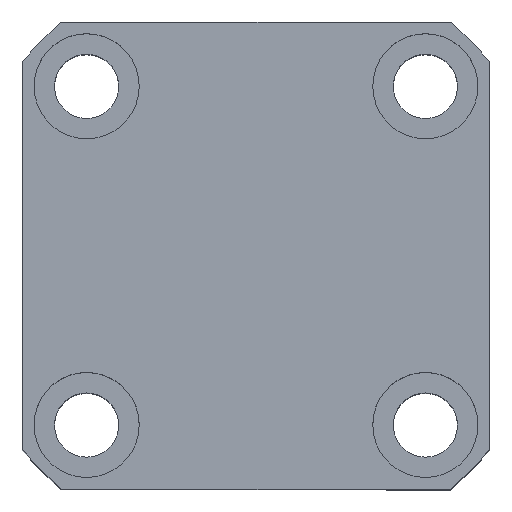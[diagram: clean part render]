
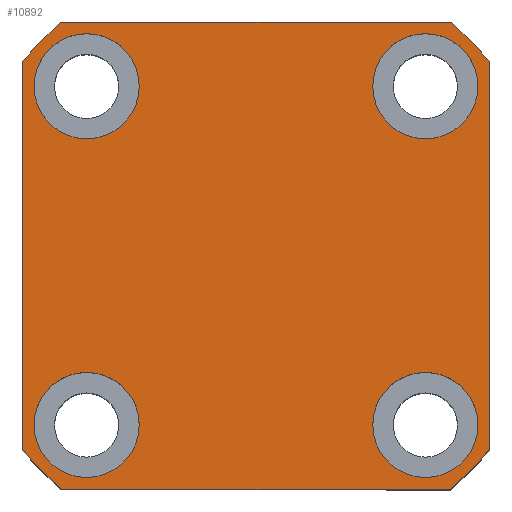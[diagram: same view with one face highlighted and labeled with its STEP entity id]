
A CAD part, top view. The second image highlights one B-rep face of the part: STEP entity #10892.
In plain terms, the highlighted planar face has unit normal (0, 0, 1).
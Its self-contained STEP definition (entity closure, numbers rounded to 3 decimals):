
#51 = DIRECTION ( 'NONE',  ( 0., 0., 1. ) ) ;
#110 = EDGE_LOOP ( 'NONE', ( #7571, #15148 ) ) ;
#561 = VERTEX_POINT ( 'NONE', #3486 ) ;
#595 = EDGE_CURVE ( 'NONE', #8358, #13368, #8290, .T. ) ;
#612 = CARTESIAN_POINT ( 'NONE',  ( 38., -29., 40. ) ) ;
#820 = DIRECTION ( 'NONE',  ( 1., 0., 0. ) ) ;
#904 = CARTESIAN_POINT ( 'NONE',  ( -20., 29., 40. ) ) ;
#925 = CIRCLE ( 'NONE', #2994, 9. ) ;
#934 = CARTESIAN_POINT ( 'NONE',  ( 0., 0., 40. ) ) ;
#1045 = DIRECTION ( 'NONE',  ( 1., 0., 0. ) ) ;
#1069 = EDGE_CURVE ( 'NONE', #10431, #12172, #7869, .T. ) ;
#1109 = EDGE_CURVE ( 'NONE', #15312, #5405, #10699, .T. ) ;
#1221 = VERTEX_POINT ( 'NONE', #1772 ) ;
#1274 = FACE_OUTER_BOUND ( 'NONE', #13201, .T. ) ;
#1325 = ORIENTED_EDGE ( 'NONE', *, *, #12152, .F. ) ;
#1384 = VERTEX_POINT ( 'NONE', #15727 ) ;
#1568 = DIRECTION ( 'NONE',  ( 1., 0., 0. ) ) ;
#1593 = DIRECTION ( 'NONE',  ( 0., 0., 1. ) ) ;
#1772 = CARTESIAN_POINT ( 'NONE',  ( -38., -29., 40. ) ) ;
#2342 = DIRECTION ( 'NONE',  ( 0., 0., 1. ) ) ;
#2349 = VERTEX_POINT ( 'NONE', #8532 ) ;
#2367 = CARTESIAN_POINT ( 'NONE',  ( -29., 29., 40. ) ) ;
#2642 = CARTESIAN_POINT ( 'NONE',  ( -20., -29., 40. ) ) ;
#2922 = CIRCLE ( 'NONE', #16923, 52. ) ;
#2994 = AXIS2_PLACEMENT_3D ( 'NONE', #8382, #9859, #16845 ) ;
#3103 = DIRECTION ( 'NONE',  ( 0., 0., 1. ) ) ;
#3146 = DIRECTION ( 'NONE',  ( 1., 0., 0. ) ) ;
#3206 = CARTESIAN_POINT ( 'NONE',  ( 0., 0., 40. ) ) ;
#3440 = ORIENTED_EDGE ( 'NONE', *, *, #1069, .T. ) ;
#3459 = VERTEX_POINT ( 'NONE', #15363 ) ;
#3486 = CARTESIAN_POINT ( 'NONE',  ( 40., 33.226, 40. ) ) ;
#3554 = ORIENTED_EDGE ( 'NONE', *, *, #9225, .F. ) ;
#3665 = DIRECTION ( 'NONE',  ( 0., 1., 0. ) ) ;
#3673 = CARTESIAN_POINT ( 'NONE',  ( -29., -29., 40. ) ) ;
#3864 = AXIS2_PLACEMENT_3D ( 'NONE', #3206, #12999, #3146 ) ;
#3922 = DIRECTION ( 'NONE',  ( 0., 0., 1. ) ) ;
#4311 = DIRECTION ( 'NONE',  ( 0., 0., 1. ) ) ;
#4376 = DIRECTION ( 'NONE',  ( 1., 0., 0. ) ) ;
#4402 = EDGE_CURVE ( 'NONE', #17044, #561, #12048, .T. ) ;
#4643 = VECTOR ( 'NONE', #3665, 1000. ) ;
#4770 = CARTESIAN_POINT ( 'NONE',  ( -33.226, 40., 40. ) ) ;
#4901 = AXIS2_PLACEMENT_3D ( 'NONE', #7171, #3103, #4376 ) ;
#5051 = CIRCLE ( 'NONE', #15696, 9. ) ;
#5104 = AXIS2_PLACEMENT_3D ( 'NONE', #6131, #17376, #10389 ) ;
#5405 = VERTEX_POINT ( 'NONE', #8518 ) ;
#5484 = VECTOR ( 'NONE', #6243, 1000. ) ;
#5970 = EDGE_CURVE ( 'NONE', #10139, #2349, #12886, .T. ) ;
#6131 = CARTESIAN_POINT ( 'NONE',  ( 29., -29., 40. ) ) ;
#6191 = EDGE_LOOP ( 'NONE', ( #11269, #16639 ) ) ;
#6243 = DIRECTION ( 'NONE',  ( 0., -1., 0. ) ) ;
#6374 = CIRCLE ( 'NONE', #7653, 9. ) ;
#6408 = CIRCLE ( 'NONE', #10844, 52. ) ;
#6762 = EDGE_CURVE ( 'NONE', #3459, #10431, #17435, .T. ) ;
#6887 = CARTESIAN_POINT ( 'NONE',  ( 33.226, -40., 40. ) ) ;
#7058 = CARTESIAN_POINT ( 'NONE',  ( -29., 29., 40. ) ) ;
#7150 = FACE_BOUND ( 'NONE', #6191, .T. ) ;
#7171 = CARTESIAN_POINT ( 'NONE',  ( 0., 0., 40. ) ) ;
#7444 = AXIS2_PLACEMENT_3D ( 'NONE', #11315, #4311, #14067 ) ;
#7526 = ORIENTED_EDGE ( 'NONE', *, *, #11019, .F. ) ;
#7571 = ORIENTED_EDGE ( 'NONE', *, *, #5970, .F. ) ;
#7653 = AXIS2_PLACEMENT_3D ( 'NONE', #7058, #1593, #14179 ) ;
#7701 = VERTEX_POINT ( 'NONE', #9085 ) ;
#7737 = DIRECTION ( 'NONE',  ( 1., 0., 0. ) ) ;
#7800 = DIRECTION ( 'NONE',  ( 0., 0., 1. ) ) ;
#7869 = LINE ( 'NONE', #15900, #5484 ) ;
#8035 = VERTEX_POINT ( 'NONE', #2642 ) ;
#8098 = ORIENTED_EDGE ( 'NONE', *, *, #6762, .T. ) ;
#8290 = LINE ( 'NONE', #10535, #16358 ) ;
#8358 = VERTEX_POINT ( 'NONE', #11430 ) ;
#8382 = CARTESIAN_POINT ( 'NONE',  ( 29., -29., 40. ) ) ;
#8442 = ORIENTED_EDGE ( 'NONE', *, *, #1109, .F. ) ;
#8471 = ORIENTED_EDGE ( 'NONE', *, *, #15708, .T. ) ;
#8484 = CARTESIAN_POINT ( 'NONE',  ( 40., -33.226, 40. ) ) ;
#8518 = CARTESIAN_POINT ( 'NONE',  ( 20., 29., 40. ) ) ;
#8532 = CARTESIAN_POINT ( 'NONE',  ( -38., 29., 40. ) ) ;
#8790 = EDGE_CURVE ( 'NONE', #1384, #17202, #15892, .T. ) ;
#8835 = CARTESIAN_POINT ( 'NONE',  ( -40., 33.226, 40. ) ) ;
#9085 = CARTESIAN_POINT ( 'NONE',  ( 33.226, 40., 40. ) ) ;
#9114 = FACE_BOUND ( 'NONE', #110, .T. ) ;
#9225 = EDGE_CURVE ( 'NONE', #1221, #8035, #14373, .T. ) ;
#9262 = PLANE ( 'NONE',  #15847 ) ;
#9327 = EDGE_LOOP ( 'NONE', ( #1325, #3554 ) ) ;
#9359 = DIRECTION ( 'NONE',  ( 0., 0., 1. ) ) ;
#9429 = CARTESIAN_POINT ( 'NONE',  ( -40., -33.226, 40. ) ) ;
#9859 = DIRECTION ( 'NONE',  ( 0., 0., 1. ) ) ;
#9894 = CARTESIAN_POINT ( 'NONE',  ( 0., 0., 40. ) ) ;
#10139 = VERTEX_POINT ( 'NONE', #904 ) ;
#10389 = DIRECTION ( 'NONE',  ( 1., 0., 0. ) ) ;
#10431 = VERTEX_POINT ( 'NONE', #8835 ) ;
#10463 = AXIS2_PLACEMENT_3D ( 'NONE', #11157, #15414, #15474 ) ;
#10535 = CARTESIAN_POINT ( 'NONE',  ( -33.226, -40., 40. ) ) ;
#10699 = CIRCLE ( 'NONE', #11386, 9. ) ;
#10719 = VECTOR ( 'NONE', #13295, 1000. ) ;
#10832 = DIRECTION ( 'NONE',  ( 0., 0., 1. ) ) ;
#10844 = AXIS2_PLACEMENT_3D ( 'NONE', #9894, #51, #1568 ) ;
#10892 = ADVANCED_FACE ( 'NONE', ( #7150, #12816, #9114, #16078, #1274 ), #9262, .T. ) ;
#10952 = CARTESIAN_POINT ( 'NONE',  ( 38., 29., 40. ) ) ;
#11019 = EDGE_CURVE ( 'NONE', #5405, #15312, #15203, .T. ) ;
#11157 = CARTESIAN_POINT ( 'NONE',  ( -29., -29., 40. ) ) ;
#11187 = EDGE_LOOP ( 'NONE', ( #8442, #7526 ) ) ;
#11201 = ORIENTED_EDGE ( 'NONE', *, *, #15848, .T. ) ;
#11269 = ORIENTED_EDGE ( 'NONE', *, *, #12450, .F. ) ;
#11315 = CARTESIAN_POINT ( 'NONE',  ( 29., 29., 40. ) ) ;
#11386 = AXIS2_PLACEMENT_3D ( 'NONE', #12009, #7800, #17531 ) ;
#11430 = CARTESIAN_POINT ( 'NONE',  ( -33.226, -40., 40. ) ) ;
#11500 = ORIENTED_EDGE ( 'NONE', *, *, #4402, .T. ) ;
#11966 = EDGE_CURVE ( 'NONE', #7701, #3459, #15070, .T. ) ;
#12002 = CARTESIAN_POINT ( 'NONE',  ( 40., 33.226, 40. ) ) ;
#12009 = CARTESIAN_POINT ( 'NONE',  ( 29., 29., 40. ) ) ;
#12048 = LINE ( 'NONE', #12002, #4643 ) ;
#12152 = EDGE_CURVE ( 'NONE', #8035, #1221, #5051, .T. ) ;
#12172 = VERTEX_POINT ( 'NONE', #9429 ) ;
#12450 = EDGE_CURVE ( 'NONE', #17202, #1384, #925, .T. ) ;
#12463 = EDGE_CURVE ( 'NONE', #2349, #10139, #6374, .T. ) ;
#12816 = FACE_BOUND ( 'NONE', #9327, .T. ) ;
#12886 = CIRCLE ( 'NONE', #16848, 9. ) ;
#12999 = DIRECTION ( 'NONE',  ( 0., 0., 1. ) ) ;
#13201 = EDGE_LOOP ( 'NONE', ( #8098, #3440, #8471, #15987, #11201, #11500, #14577, #15560 ) ) ;
#13295 = DIRECTION ( 'NONE',  ( -1., 0., 0. ) ) ;
#13368 = VERTEX_POINT ( 'NONE', #6887 ) ;
#13423 = DIRECTION ( 'NONE',  ( 1., 0., 0. ) ) ;
#13757 = CARTESIAN_POINT ( 'NONE',  ( 0., 0., 40. ) ) ;
#13803 = CIRCLE ( 'NONE', #3864, 52. ) ;
#14067 = DIRECTION ( 'NONE',  ( 1., 0., 0. ) ) ;
#14179 = DIRECTION ( 'NONE',  ( 1., 0., 0. ) ) ;
#14373 = CIRCLE ( 'NONE', #10463, 9. ) ;
#14577 = ORIENTED_EDGE ( 'NONE', *, *, #15508, .T. ) ;
#15063 = DIRECTION ( 'NONE',  ( 1., 0., 0. ) ) ;
#15070 = LINE ( 'NONE', #4770, #10719 ) ;
#15148 = ORIENTED_EDGE ( 'NONE', *, *, #12463, .F. ) ;
#15203 = CIRCLE ( 'NONE', #7444, 9. ) ;
#15312 = VERTEX_POINT ( 'NONE', #10952 ) ;
#15363 = CARTESIAN_POINT ( 'NONE',  ( -33.226, 40., 40. ) ) ;
#15414 = DIRECTION ( 'NONE',  ( 0., 0., 1. ) ) ;
#15474 = DIRECTION ( 'NONE',  ( 1., 0., 0. ) ) ;
#15508 = EDGE_CURVE ( 'NONE', #561, #7701, #6408, .T. ) ;
#15560 = ORIENTED_EDGE ( 'NONE', *, *, #11966, .T. ) ;
#15696 = AXIS2_PLACEMENT_3D ( 'NONE', #3673, #10832, #13423 ) ;
#15708 = EDGE_CURVE ( 'NONE', #12172, #8358, #13803, .T. ) ;
#15727 = CARTESIAN_POINT ( 'NONE',  ( 20., -29., 40. ) ) ;
#15847 = AXIS2_PLACEMENT_3D ( 'NONE', #934, #2342, #820 ) ;
#15848 = EDGE_CURVE ( 'NONE', #13368, #17044, #2922, .T. ) ;
#15892 = CIRCLE ( 'NONE', #5104, 9. ) ;
#15900 = CARTESIAN_POINT ( 'NONE',  ( -40., 33.226, 40. ) ) ;
#15987 = ORIENTED_EDGE ( 'NONE', *, *, #595, .T. ) ;
#16078 = FACE_BOUND ( 'NONE', #11187, .T. ) ;
#16358 = VECTOR ( 'NONE', #7737, 1000. ) ;
#16639 = ORIENTED_EDGE ( 'NONE', *, *, #8790, .F. ) ;
#16845 = DIRECTION ( 'NONE',  ( 1., 0., 0. ) ) ;
#16848 = AXIS2_PLACEMENT_3D ( 'NONE', #2367, #3922, #15063 ) ;
#16923 = AXIS2_PLACEMENT_3D ( 'NONE', #13757, #9359, #1045 ) ;
#17044 = VERTEX_POINT ( 'NONE', #8484 ) ;
#17202 = VERTEX_POINT ( 'NONE', #612 ) ;
#17376 = DIRECTION ( 'NONE',  ( 0., 0., 1. ) ) ;
#17435 = CIRCLE ( 'NONE', #4901, 52. ) ;
#17531 = DIRECTION ( 'NONE',  ( 1., 0., 0. ) ) ;
